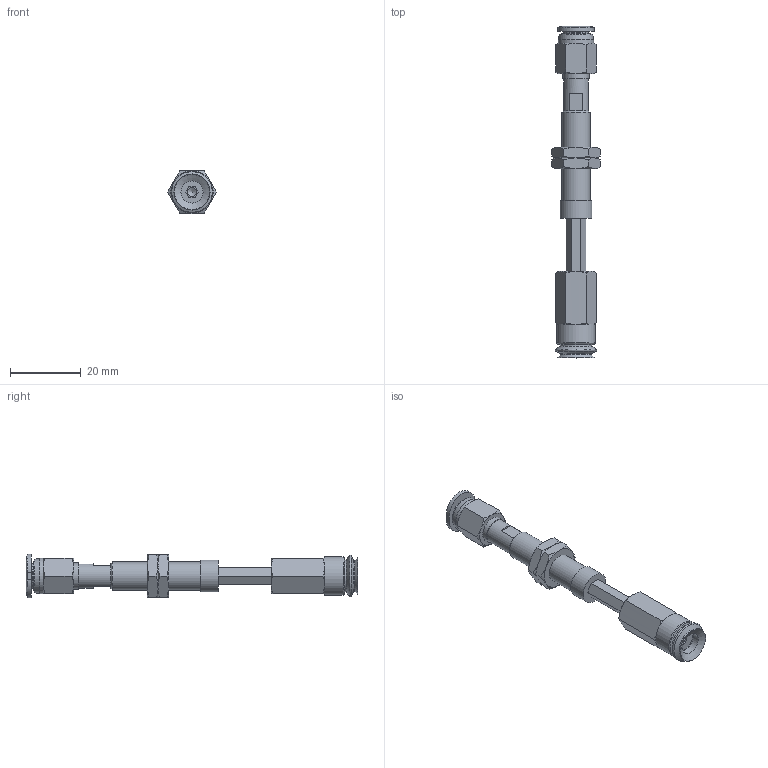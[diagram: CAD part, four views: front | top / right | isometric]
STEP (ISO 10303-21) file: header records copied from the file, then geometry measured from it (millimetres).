
FILE_DESCRIPTION(('STEP AP203'),'1');
FILE_NAME('-O.stp','2025-08-27T06:48:34',(' '),(' '),'Spatial InterOp 3D',' ',' ');
FILE_SCHEMA(('CONFIG_CONTROL_DESIGN'));
Length unit declared in the file: millimetre
Products named in the file (8): BNABPJTH-10-15-※-O; ADAPTER; NAPCTH-10-15-MBODY; Adapter-10-NAPJ; NAPJH-10-15-NUT; NAPJTH-10-15-FBODY; BPJG-10-※; PC-C_06-M5
Assembly tree (8 placements, depth 2):
  BNABPJTH-10-15-※-O
    ADAPTER
    NAPCTH-10-15-MBODY
    Adapter-10-NAPJ
    NAPJH-10-15-NUT  x2
    NAPJTH-10-15-FBODY
    BPJG-10-※
    PC-C_06-M5
Bounding box: 13.86 x 93.98 x 12.4 mm (x, y, z)
Volume: 4510.6 mm3; surface area: 6106.4 mm2
Topology: 7 solids, 10 shells, 183 faces, 387 edges, 235 vertices
Faces by surface type: plane 77, cone 67, cylinder 23, torus 9, bspline 4, revolution 3
Full cylindrical faces by diameter (mm): 2.5 x1, 4 x2, 4.134 x2, 4.6 x1, 5 x2, 6.266 x1, 7 x2, 7.188 x2, 7.4 x1, 7.8 x1, 8 x2, 8.2 x1, 9 x1, 10 x1, 11 x1
Entity records: 4956 total; most frequent: CARTESIAN_POINT 1485, DIRECTION 635, ORIENTED_EDGE 554, EDGE_CURVE 279, AXIS2_PLACEMENT_3D 270, EDGE_LOOP 230, VERTEX_POINT 196, FACE_OUTER_BOUND 129
